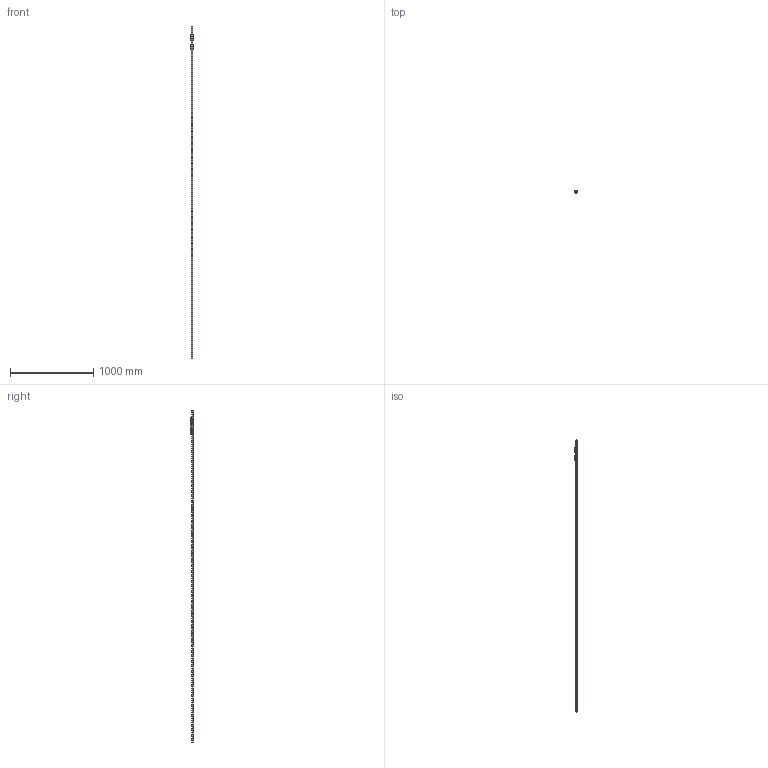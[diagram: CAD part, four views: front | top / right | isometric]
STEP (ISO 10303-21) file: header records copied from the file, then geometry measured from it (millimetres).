
FILE_DESCRIPTION((''),'2;1');
FILE_NAME('BRS20-R0_CUSTOMER_ASM_1_ASM_ASM','2020-11-24T12:54:11',('TWVS2025'),(''),'CREO PARAMETRIC BY PTC INC, 2018420','CREO PARAMETRIC BY PTC INC, 2018420','');
FILE_SCHEMA(('CONFIG_CONTROL_DESIGN'));
Products named in the file (5): BC-BRC20-R0_ASM_1_1; BRR20_CUSTOMER_1_1_1_2_3; BC-BRD20-R0_ASM__1_ASM; BRS20-R0_CUSTOMER_ASM_1_ASM_1_ASM; BRS20-R0_CUSTOMER_ASM_1_ASM_ASM
Assembly tree (4 placements, depth 3):
  BRS20-R0_CUSTOMER_ASM_1_ASM_ASM
    BRS20-R0_CUSTOMER_ASM_1_ASM_1_ASM
      BC-BRC20-R0_ASM_1_1
      BRR20_CUSTOMER_1_1_1_2_3
      BC-BRD20-R0_ASM__1_ASM
Bounding box: 43.95 x 30 x 4000 mm (x, y, z)
Volume: 1251616.6 mm3; surface area: 398919 mm2
Topology: 2 solids, 13 shells, 4505 faces, 12709 edges, 8278 vertices
Faces by surface type: plane 1870, cylinder 1286, cone 708, torus 320, bspline 228, sphere 71, revolution 12, extrusion 10
Entity records: 201482 total; most frequent: CARTESIAN_POINT 87279, ORIENTED_EDGE 25265, DIRECTION 22167, EDGE_CURVE 12663, VERTEX_POINT 8278, AXIS2_PLACEMENT_3D 7897, VECTOR 6361, LINE 6351
